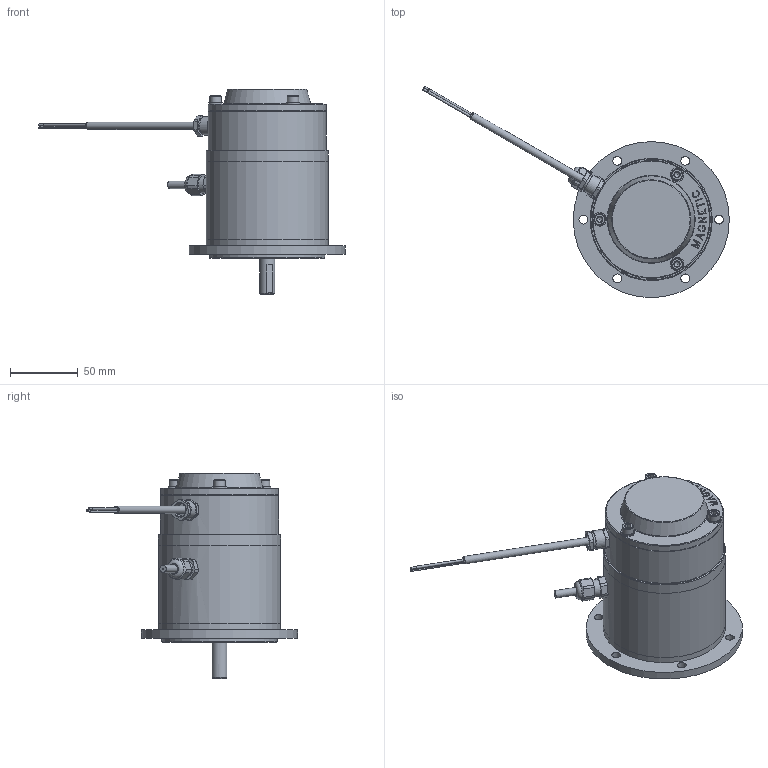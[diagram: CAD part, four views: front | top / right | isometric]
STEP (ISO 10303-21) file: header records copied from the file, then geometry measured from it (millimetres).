
FILE_DESCRIPTION(/* description */ ('Unknown'),/* implementation_level */ '2;1');
FILE_NAME(/* name */ 'EH_115R_10',/* time_stamp */ '2025-02-11T09:00:39+01:00',/* author */ ('Unknown'),/* organization */ ('Unknown'),/* preprocessor_version */ 'ST-DEVELOPER v16.7',/* originating_system */ 'DEX',/* authorisation */ $);
FILE_SCHEMA (('AUTOMOTIVE_DESIGN {1 0 10303 214 3 1 1}'));
Length unit declared in the file: millimetre
Products named in the file (1): EH_115R_10
Bounding box: 225.9 x 155.54 x 151.5 mm (x, y, z)
Volume: 359421.7 mm3; surface area: 146563.6 mm2
Topology: 38 solids, 40 shells, 1307 faces, 3002 edges, 1659 vertices
Faces by surface type: cylinder 586, plane 306, torus 187, sphere 155, cone 67, bspline 6
Full cylindrical faces by diameter (mm): 0.799 x1, 1 x1, 1.4 x2, 1.8 x2, 2.013 x6, 2.459 x8, 4 x1, 4.019 x3, 4.134 x6, 4.4 x1, 5 x6, 5.3 x3, 5.5 x10, 6 x1, 6.5 x7, 8.5 x3, 10 x7, 11 x2, 11.89 x1, 12.5 x4, 13.7 x1, 13.8 x1, 14.5 x4, 20 x1, 21.2 x4, 21.998 x4, 24 x1, 26 x14, 31 x1, 48 x1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
Entity records: 44477 total; most frequent: CARTESIAN_POINT 14497, DIRECTION 6420, ORIENTED_EDGE 4966, AXIS2_PLACEMENT_3D 2707, EDGE_CURVE 2483, FACE_BOUND 1630, EDGE_LOOP 1588, VERTEX_POINT 1545
